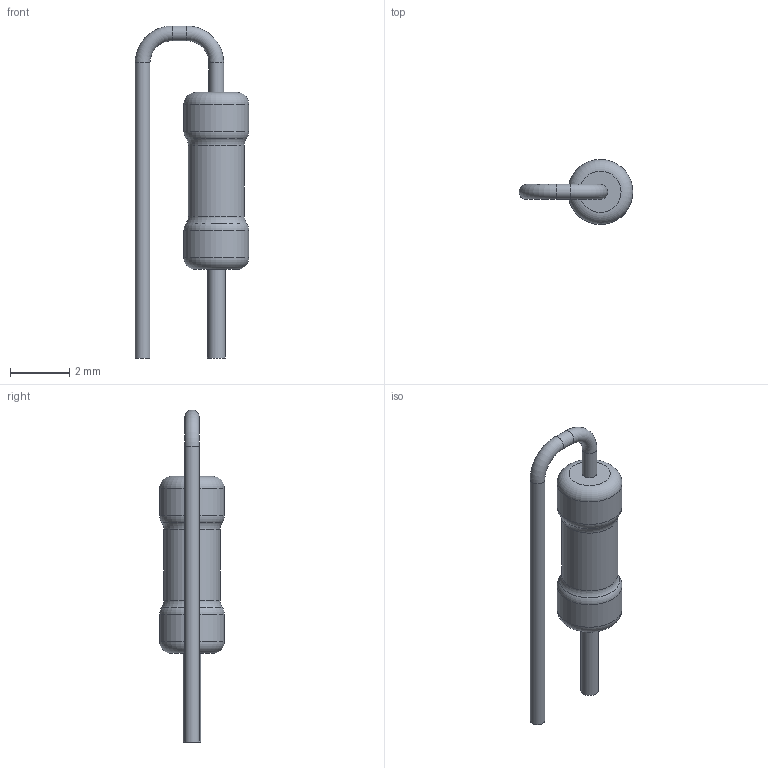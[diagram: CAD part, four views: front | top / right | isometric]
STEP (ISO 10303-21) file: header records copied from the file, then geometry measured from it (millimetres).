
FILE_DESCRIPTION(('STEP AP203'), '1');
FILE_NAME('栖闉罻', '', ('UNSPECIFIED'), ('UNSPECIFIED'), 'ASCON STEP Converter 1.6', 'ASCON Math Kernel', '');
FILE_SCHEMA(('CONFIG_CONTROL_DESIGN'));
Length unit declared in the file: millimetre
Assembly tree (1 placements, depth 2):
  (unnamed)
    (unnamed)
Bounding box: 3.85 x 2.2 x 11.25 mm (x, y, z)
Volume: 23.3 mm3; surface area: 72.9 mm2
Topology: 1 solids, 1 shells, 19 faces, 33 edges, 18 vertices
Faces by surface type: torus 8, cylinder 7, plane 4
Full cylindrical faces by diameter (mm): 0.5 x3, 0.6 x1, 1.9 x1, 2.2 x2
Entity records: 620 total; most frequent: DIRECTION 78, CARTESIAN_POINT 57, AXIS2_PLACEMENT_3D 39, EDGE_LOOP 36, ORIENTED_EDGE 36, FACE_OUTER_BOUND 30, COLOUR_RGB 20, FILL_AREA_STYLE_COLOUR 20
